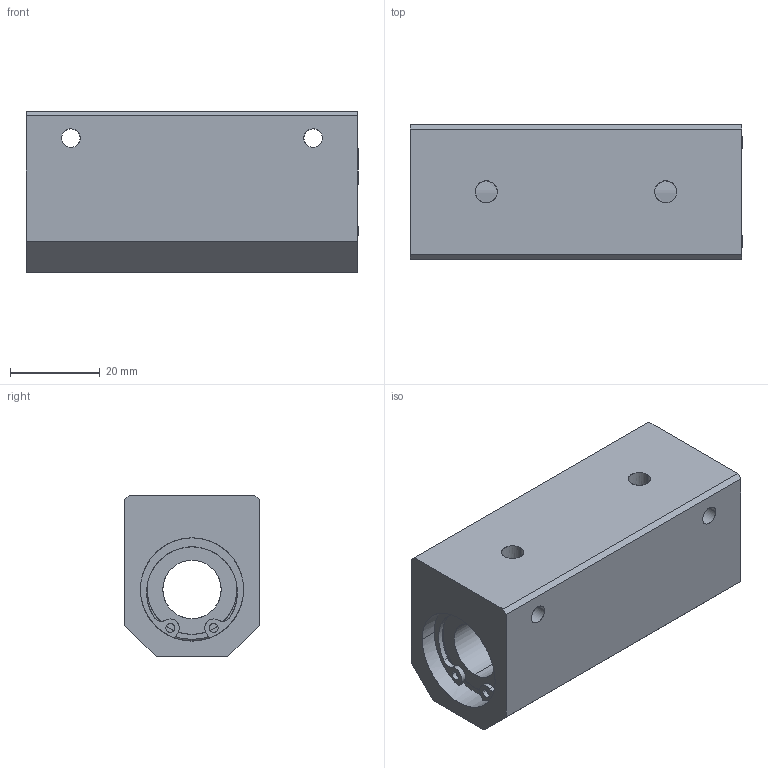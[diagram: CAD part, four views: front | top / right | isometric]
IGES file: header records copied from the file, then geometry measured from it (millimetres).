
Global section: file name: No Iges File Name specified; native system: AutoDesk Inventor R11.0; preprocessor: AutoDesk Inventor Iges Exporter R11.0; author: No Author specified; organization: No Organization specified; date: 20111024.132830; units: millimetre
Bounding box: 74 x 30 x 36 mm (x, y, z)
Surface area: 17462 mm2 (no closed solid volume)
Topology: 0 solids, 0 shells, 122 faces, 924 edges, 924 vertices
Faces by surface type: bspline 122
